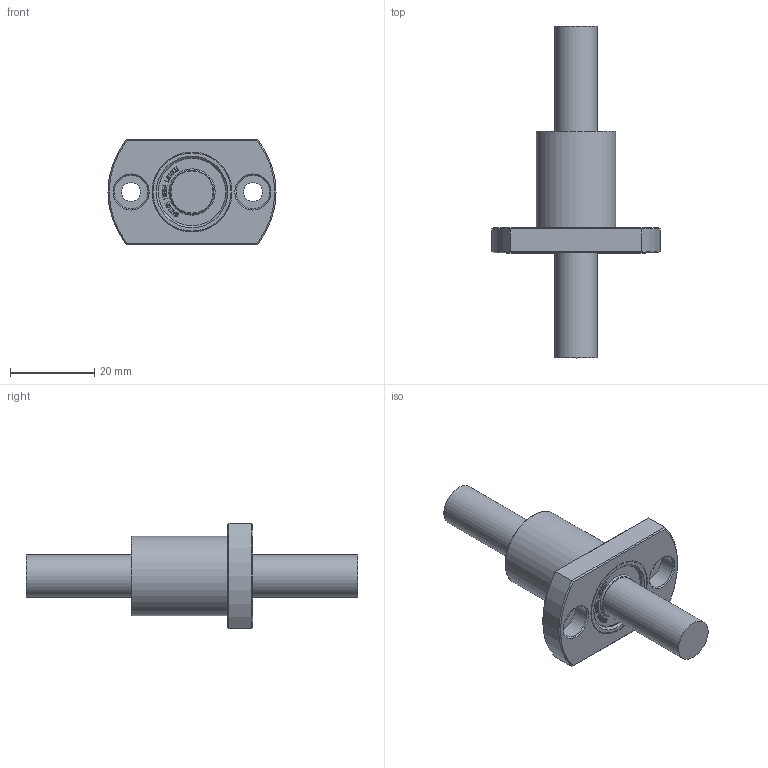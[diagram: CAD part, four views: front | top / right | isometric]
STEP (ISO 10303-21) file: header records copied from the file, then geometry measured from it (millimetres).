
FILE_DESCRIPTION(/* description */ (''),/* implementation_level */ '2;1');
FILE_NAME(/* name */ 'W:\(01) 2024년 홈페이지 CAD파일 최신화\LMH\IPT\LMH10UU.stp',/* time_stamp */ '2025-01-23T09:34:55+09:00',/* author */ ('서우현'),/* organization */ (''),/* preprocessor_version */ 'ST-DEVELOPER v17.2',/* originating_system */ 'Autodesk Inventor 2019',/* authorisation */ '');
FILE_SCHEMA (('AUTOMOTIVE_DESIGN { 1 0 10303 214 3 1 1 }'));
Length unit declared in the file: millimetre
Products named in the file (1): LM5
Bounding box: 40 x 79 x 25 mm (x, y, z)
Volume: 15312.4 mm3; surface area: 5782.7 mm2
Topology: 1 solids, 1 shells, 824 faces, 2312 edges, 1544 vertices
Faces by surface type: bspline 568, plane 230, cone 12, cylinder 12, torus 2
Full cylindrical faces by diameter (mm): 4.5 x2, 8 x2, 10 x2, 16 x2, 19 x2
Entity records: 28002 total; most frequent: CARTESIAN_POINT 9809, ORIENTED_EDGE 4624, EDGE_CURVE 2312, DIRECTION 1748, VERTEX_POINT 1544, B_SPLINE_CURVE_WITH_KNOTS 1136, LINE 1102, VECTOR 1102
